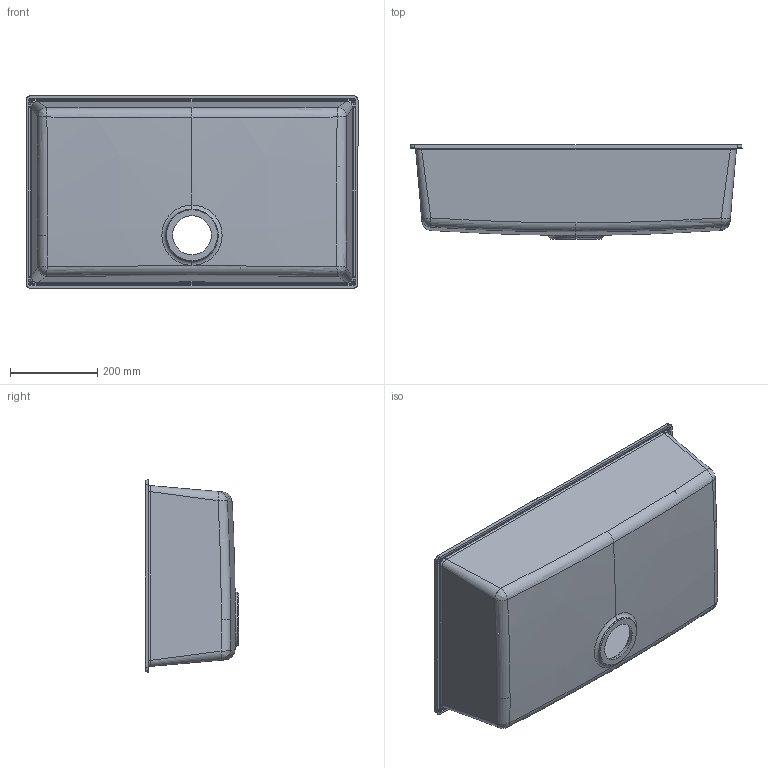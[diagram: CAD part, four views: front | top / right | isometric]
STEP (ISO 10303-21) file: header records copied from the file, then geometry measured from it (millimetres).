
FILE_DESCRIPTION (( 'STEP AP203' ), '1' );
FILE_NAME ('SLQ130BIN.STEP', '2018-11-14T15:56:17', ( '' ), ( '' ), 'SwSTEP 2.0', 'SolidWorks 2013', '' );
FILE_SCHEMA (( 'CONFIG_CONTROL_DESIGN' ));
Length unit declared in the file: millimetre
Products named in the file (1): SLQ130BIN
Bounding box: 760 x 214.97 x 440 mm (x, y, z)
Volume: 5542693.7 mm3; surface area: 1400746.1 mm2
Topology: 1 solids, 1 shells, 187 faces, 466 edges, 266 vertices
Faces by surface type: bspline 64, cylinder 44, torus 34, plane 27, sphere 12, cone 6
Entity records: 8438 total; most frequent: CARTESIAN_POINT 4421, ORIENTED_EDGE 900, DIRECTION 754, EDGE_CURVE 450, AXIS2_PLACEMENT_3D 324, VERTEX_POINT 266, CIRCLE 200, EDGE_LOOP 192
